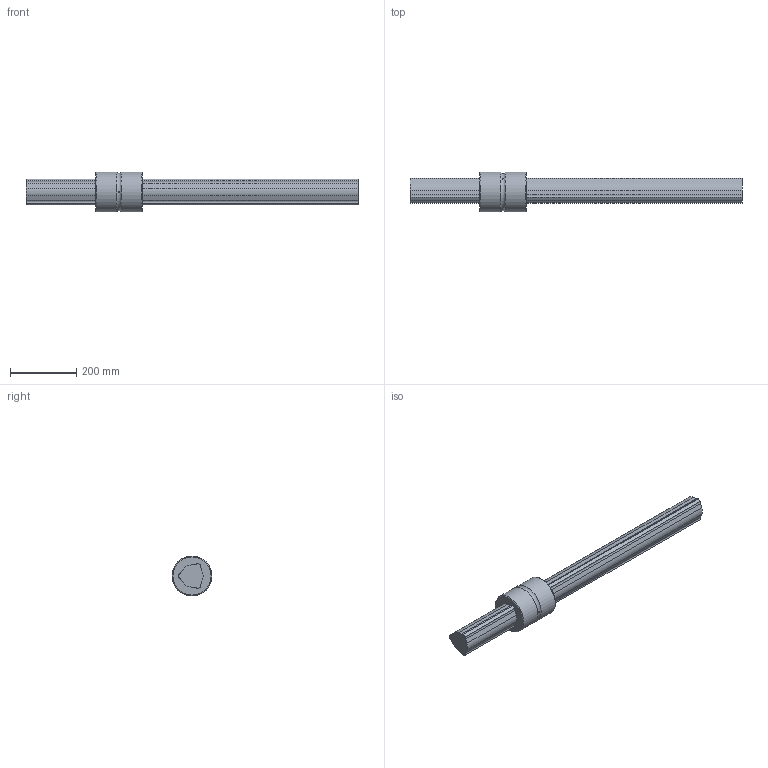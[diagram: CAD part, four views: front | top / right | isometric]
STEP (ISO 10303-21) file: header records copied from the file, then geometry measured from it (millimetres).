
FILE_DESCRIPTION(/* description */ ('STEP AP214'),/* implementation_level */ '2;1');
FILE_NAME(/* name */ 'LBS85+1000L(1402100)',/* time_stamp */ '2024-09-04T12:51:09+02:00',/* author */ ('License CC BY-ND 4.0'),/* organization */ ('CADENAS'),/* preprocessor_version */ 'ST-DEVELOPER v19.3',/* originating_system */ 'PARTsolutions',/* authorisation */ ' ');
FILE_SCHEMA (('AUTOMOTIVE_DESIGN {1 0 10303 214 3 1 1}'));
Length unit declared in the file: millimetre
Products named in the file (3): LBS85+1000L(1402100); LBS85 Nut; LBS8511000 Spline Shaft
Assembly tree (2 placements, depth 2):
  LBS85+1000L(1402100)
    LBS85 Nut
    LBS8511000 Spline Shaft
Bounding box: 1000 x 120 x 120 mm (x, y, z)
Volume: 4974924.4 mm3; surface area: 355173.5 mm2
Topology: 3 solids, 3 shells, 57 faces, 148 edges, 99 vertices
Faces by surface type: cylinder 31, plane 22, torus 4
Full cylindrical faces by diameter (mm): 5 x3, 120 x2
Entity records: 1806 total; most frequent: CARTESIAN_POINT 351, DIRECTION 306, ORIENTED_EDGE 272, EDGE_CURVE 136, AXIS2_PLACEMENT_3D 118, VERTEX_POINT 94, LINE 70, VECTOR 70
